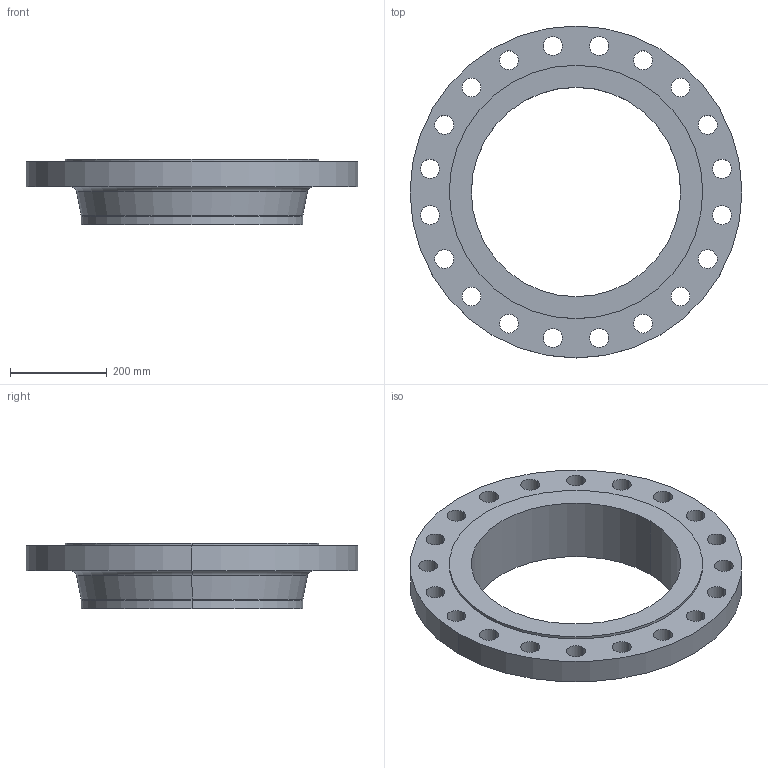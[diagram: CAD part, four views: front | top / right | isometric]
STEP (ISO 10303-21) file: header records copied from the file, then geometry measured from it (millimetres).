
FILE_DESCRIPTION (( 'STEP AP214' ), '1' );
FILE_NAME ('PN40 DN450 Type 11 - Type E Face.STEP', '2018-12-29T04:55:43', ( '' ), ( '' ), 'SwSTEP 2.0', 'SolidWorks 2019', '' );
FILE_SCHEMA (( 'AUTOMOTIVE_DESIGN' ));
Length unit declared in the file: millimetre
Products named in the file (1): PN40 DN450 Type 11 - Type E Face
Bounding box: 685 x 685 x 135 mm (x, y, z)
Volume: 12468738.1 mm3; surface area: 919274.1 mm2
Topology: 1 solids, 1 shells, 58 faces, 156 edges, 102 vertices
Faces by surface type: cylinder 48, torus 4, plane 4, cone 2
Entity records: 1996 total; most frequent: DIRECTION 380, CARTESIAN_POINT 317, ORIENTED_EDGE 312, AXIS2_PLACEMENT_3D 165, EDGE_CURVE 156, CIRCLE 106, VERTEX_POINT 102, EDGE_LOOP 102
